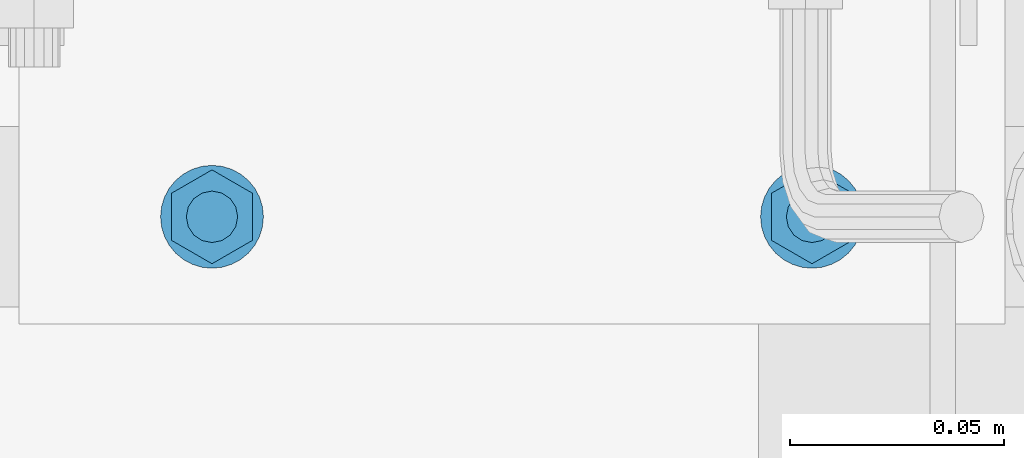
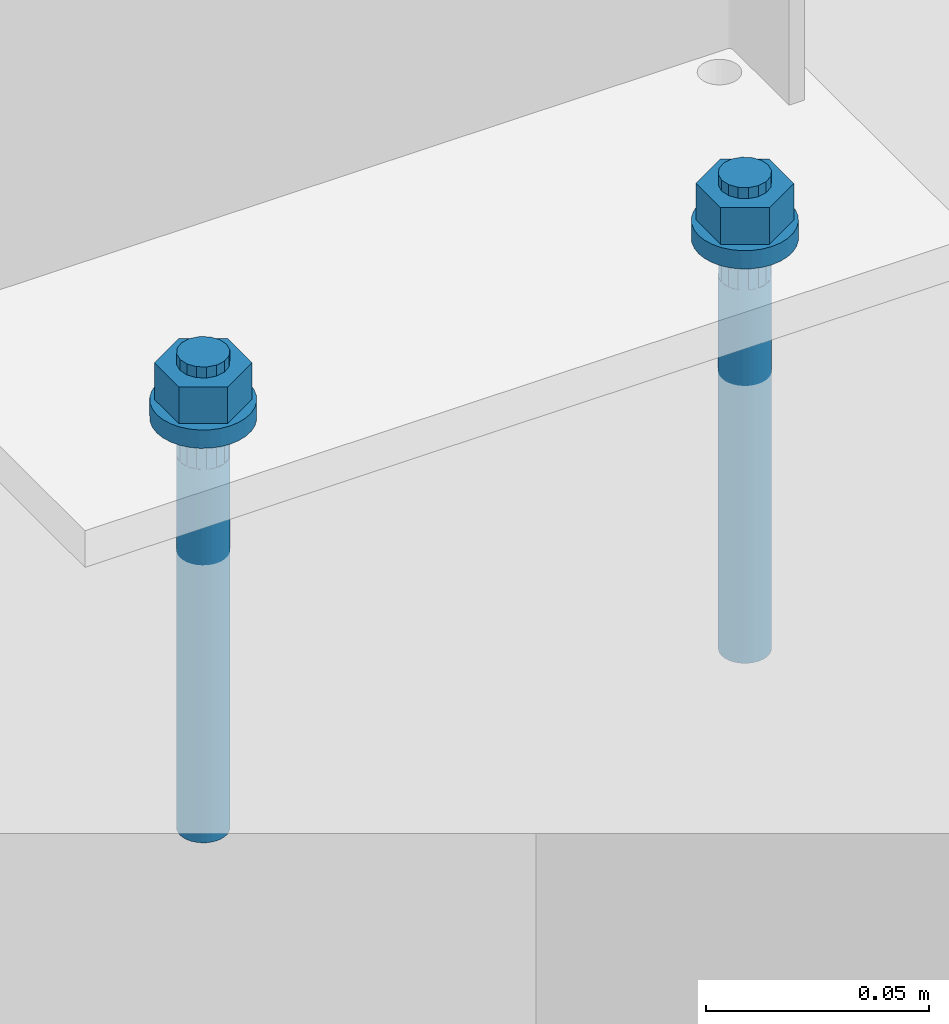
# One storey, part 33 of 116: 1 mechanical fastener.
"""IFC2X3 building model written with IfcOpenShell, lengths in millimetres."""

from ifc_helpers import new_model, entity, si_unit, converted_unit, origin_with_axes, place, context, project, spatial, faceted_brep, element, save


model = new_model("IFC2X3")

# Units and contexts
model_context = context("Model", 3, precision=1e-09, world=origin_with_axes())
ifc_project = project(units=[si_unit("LENGTHUNIT", "METRE", prefix="MILLI"), si_unit("AREAUNIT", "SQUARE_METRE"), si_unit("VOLUMEUNIT", "CUBIC_METRE"), converted_unit("PLANEANGLEUNIT", "DEGREE", entity("IfcPlaneAngleMeasure", 0.01745329), si_unit("PLANEANGLEUNIT", "RADIAN"), dimensions=[0, 0, 0, 0, 0, 0, 0])], contexts=[model_context])

# Site, building, storey
site_placement = place(None, origin_with_axes())
site = spatial("IfcSite", under=ifc_project, at=site_placement, Name="Site", CompositionType="ELEMENT")
building_placement = place(site_placement, origin_with_axes())
building = spatial("IfcBuilding", under=site, at=building_placement, Name="Struktur 1", CompositionType="ELEMENT")
storey_placement = place(building_placement, origin_with_axes())
storey = spatial("IfcBuildingStorey", under=building, at=storey_placement, Name="Default Storey", CompositionType="ELEMENT", Elevation=0.0)

# Mechanical fastener
mechanical_fastener_placement = place(None, origin_with_axes())
element("IfcMechanicalFastener", 1, at=mechanical_fastener_placement, inside=storey, ObjectType="-", NominalDiameter=12.0, NominalLength=130.0, context=model_context, shape_type="Brep", body=[
    faceted_brep([(60566.549134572, 10360.358883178, -1742.0), (60566.549134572, 10360.358883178, -1739.5), (60566.779711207, 10362.699967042, -1739.5), (60566.779711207, 10362.699967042, -1742.0), (60567.462580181, 10364.951084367, -1739.5), (60567.462580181, 10364.951084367, -1742.0), (60568.571499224, 10367.025725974, -1739.5), (60568.571499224, 10367.025725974, -1742.0), (60570.063853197, 10368.844164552, -1739.5), (60570.063853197, 10368.844164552, -1742.0), (60571.882291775, 10370.336518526, -1739.5), (60571.882291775, 10370.336518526, -1742.0), (60573.956933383, 10371.445437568, -1739.5), (60573.956933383, 10371.445437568, -1742.0), (60576.208050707, 10372.128306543, -1739.5), (60576.208050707, 10372.128306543, -1742.0), (60578.549134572, 10372.358883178, -1739.5), (60578.549134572, 10372.358883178, -1742.0), (60580.890218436, 10372.128306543, -1739.5), (60580.890218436, 10372.128306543, -1742.0), (60583.14133576, 10371.445437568, -1739.5), (60583.14133576, 10371.445437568, -1742.0), (60585.215977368, 10370.336518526, -1739.5), (60585.215977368, 10370.336518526, -1742.0), (60587.034415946, 10368.844164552, -1739.5), (60587.034415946, 10368.844164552, -1742.0), (60588.526769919, 10367.025725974, -1739.5), (60588.526769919, 10367.025725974, -1742.0), (60589.635688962, 10364.951084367, -1739.5), (60589.635688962, 10364.951084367, -1742.0), (60590.318557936, 10362.699967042, -1739.5), (60590.318557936, 10362.699967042, -1742.0), (60590.549134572, 10360.358883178, -1739.5), (60590.549134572, 10360.358883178, -1742.0), (60590.318557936, 10358.017799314, -1739.5), (60590.318557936, 10358.017799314, -1742.0), (60589.635688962, 10355.76668199, -1739.5), (60589.635688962, 10355.76668199, -1742.0), (60588.526769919, 10353.692040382, -1739.5), (60588.526769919, 10353.692040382, -1742.0), (60587.034415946, 10351.873601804, -1739.5), (60587.034415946, 10351.873601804, -1742.0), (60585.215977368, 10350.381247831, -1739.5), (60585.215977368, 10350.381247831, -1742.0), (60583.14133576, 10349.272328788, -1739.5), (60583.14133576, 10349.272328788, -1742.0), (60580.890218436, 10348.589459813, -1739.5), (60580.890218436, 10348.589459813, -1742.0), (60578.549134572, 10348.358883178, -1739.5), (60578.549134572, 10348.358883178, -1742.0), (60576.208050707, 10348.589459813, -1739.5), (60576.208050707, 10348.589459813, -1742.0), (60573.956933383, 10349.272328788, -1739.5), (60573.956933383, 10349.272328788, -1742.0), (60571.882291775, 10350.381247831, -1739.5), (60571.882291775, 10350.381247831, -1742.0), (60570.063853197, 10351.873601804, -1739.5), (60570.063853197, 10351.873601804, -1742.0), (60568.571499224, 10353.692040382, -1739.5), (60568.571499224, 10353.692040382, -1742.0), (60567.462580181, 10355.76668199, -1739.5), (60567.462580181, 10355.76668199, -1742.0), (60566.779711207, 10358.017799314, -1739.5), (60566.779711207, 10358.017799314, -1742.0)], [[[0, 1, 2, 3]], [[3, 2, 4, 5]], [[5, 4, 6, 7]], [[7, 6, 8, 9]], [[9, 8, 10, 11]], [[11, 10, 12, 13]], [[13, 12, 14, 15]], [[15, 14, 16, 17]], [[17, 16, 18, 19]], [[19, 18, 20, 21]], [[21, 20, 22, 23]], [[23, 22, 24, 25]], [[25, 24, 26, 27]], [[27, 26, 28, 29]], [[29, 28, 30, 31]], [[31, 30, 32, 33]], [[33, 32, 34, 35]], [[35, 34, 36, 37]], [[37, 36, 38, 39]], [[39, 38, 40, 41]], [[41, 40, 42, 43]], [[43, 42, 44, 45]], [[45, 44, 46, 47]], [[47, 46, 48, 49]], [[49, 48, 50, 51]], [[51, 50, 52, 53]], [[53, 52, 54, 55]], [[55, 54, 56, 57]], [[57, 56, 58, 59]], [[59, 58, 60, 61]], [[61, 60, 62, 63]], [[63, 62, 1, 0]], [[2, 1, 62, 60, 58, 56, 54, 52, 50, 48, 46, 44, 42, 40, 38, 36, 34, 32, 30, 28, 26, 24, 22, 20, 18, 16, 14, 12, 10, 8, 6, 4]], [[63, 0, 3, 5, 7, 9, 11, 13, 15, 17, 19, 21, 23, 25, 27, 29, 31, 33, 35, 37, 39, 41, 43, 45, 47, 49, 51, 53, 55, 57, 59, 61]]]),
    faceted_brep([(60426.549134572, 10360.358883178, -1742.0), (60426.549134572, 10360.358883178, -1739.5), (60426.779711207, 10362.699967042, -1739.5), (60426.779711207, 10362.699967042, -1742.0), (60427.462580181, 10364.951084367, -1739.5), (60427.462580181, 10364.951084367, -1742.0), (60428.571499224, 10367.025725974, -1739.5), (60428.571499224, 10367.025725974, -1742.0), (60430.063853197, 10368.844164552, -1739.5), (60430.063853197, 10368.844164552, -1742.0), (60431.882291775, 10370.336518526, -1739.5), (60431.882291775, 10370.336518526, -1742.0), (60433.956933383, 10371.445437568, -1739.5), (60433.956933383, 10371.445437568, -1742.0), (60436.208050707, 10372.128306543, -1739.5), (60436.208050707, 10372.128306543, -1742.0), (60438.549134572, 10372.358883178, -1739.5), (60438.549134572, 10372.358883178, -1742.0), (60440.890218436, 10372.128306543, -1739.5), (60440.890218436, 10372.128306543, -1742.0), (60443.14133576, 10371.445437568, -1739.5), (60443.14133576, 10371.445437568, -1742.0), (60445.215977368, 10370.336518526, -1739.5), (60445.215977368, 10370.336518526, -1742.0), (60447.034415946, 10368.844164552, -1739.5), (60447.034415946, 10368.844164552, -1742.0), (60448.526769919, 10367.025725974, -1739.5), (60448.526769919, 10367.025725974, -1742.0), (60449.635688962, 10364.951084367, -1739.5), (60449.635688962, 10364.951084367, -1742.0), (60450.318557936, 10362.699967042, -1739.5), (60450.318557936, 10362.699967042, -1742.0), (60450.549134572, 10360.358883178, -1739.5), (60450.549134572, 10360.358883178, -1742.0), (60450.318557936, 10358.017799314, -1739.5), (60450.318557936, 10358.017799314, -1742.0), (60449.635688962, 10355.76668199, -1739.5), (60449.635688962, 10355.76668199, -1742.0), (60448.526769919, 10353.692040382, -1739.5), (60448.526769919, 10353.692040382, -1742.0), (60447.034415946, 10351.873601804, -1739.5), (60447.034415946, 10351.873601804, -1742.0), (60445.215977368, 10350.381247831, -1739.5), (60445.215977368, 10350.381247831, -1742.0), (60443.14133576, 10349.272328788, -1739.5), (60443.14133576, 10349.272328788, -1742.0), (60440.890218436, 10348.589459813, -1739.5), (60440.890218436, 10348.589459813, -1742.0), (60438.549134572, 10348.358883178, -1739.5), (60438.549134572, 10348.358883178, -1742.0), (60436.208050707, 10348.589459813, -1739.5), (60436.208050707, 10348.589459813, -1742.0), (60433.956933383, 10349.272328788, -1739.5), (60433.956933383, 10349.272328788, -1742.0), (60431.882291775, 10350.381247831, -1739.5), (60431.882291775, 10350.381247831, -1742.0), (60430.063853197, 10351.873601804, -1739.5), (60430.063853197, 10351.873601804, -1742.0), (60428.571499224, 10353.692040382, -1739.5), (60428.571499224, 10353.692040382, -1742.0), (60427.462580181, 10355.76668199, -1739.5), (60427.462580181, 10355.76668199, -1742.0), (60426.779711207, 10358.017799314, -1739.5), (60426.779711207, 10358.017799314, -1742.0)], [[[0, 1, 2, 3]], [[3, 2, 4, 5]], [[5, 4, 6, 7]], [[7, 6, 8, 9]], [[9, 8, 10, 11]], [[11, 10, 12, 13]], [[13, 12, 14, 15]], [[15, 14, 16, 17]], [[17, 16, 18, 19]], [[19, 18, 20, 21]], [[21, 20, 22, 23]], [[23, 22, 24, 25]], [[25, 24, 26, 27]], [[27, 26, 28, 29]], [[29, 28, 30, 31]], [[31, 30, 32, 33]], [[33, 32, 34, 35]], [[35, 34, 36, 37]], [[37, 36, 38, 39]], [[39, 38, 40, 41]], [[41, 40, 42, 43]], [[43, 42, 44, 45]], [[45, 44, 46, 47]], [[47, 46, 48, 49]], [[49, 48, 50, 51]], [[51, 50, 52, 53]], [[53, 52, 54, 55]], [[55, 54, 56, 57]], [[57, 56, 58, 59]], [[59, 58, 60, 61]], [[61, 60, 62, 63]], [[63, 62, 1, 0]], [[2, 1, 62, 60, 58, 56, 54, 52, 50, 48, 46, 44, 42, 40, 38, 36, 34, 32, 30, 28, 26, 24, 22, 20, 18, 16, 14, 12, 10, 8, 6, 4]], [[63, 0, 3, 5, 7, 9, 11, 13, 15, 17, 19, 21, 23, 25, 27, 29, 31, 33, 35, 37, 39, 41, 43, 45, 47, 49, 51, 53, 55, 57, 59, 61]]]),
    faceted_brep([(60566.549134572, 10360.358883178, -1739.5), (60566.549134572, 10360.358883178, -1737.0), (60566.779711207, 10362.699967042, -1737.0), (60566.779711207, 10362.699967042, -1739.5), (60567.462580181, 10364.951084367, -1737.0), (60567.462580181, 10364.951084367, -1739.5), (60568.571499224, 10367.025725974, -1737.0), (60568.571499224, 10367.025725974, -1739.5), (60570.063853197, 10368.844164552, -1737.0), (60570.063853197, 10368.844164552, -1739.5), (60571.882291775, 10370.336518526, -1737.0), (60571.882291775, 10370.336518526, -1739.5), (60573.956933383, 10371.445437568, -1737.0), (60573.956933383, 10371.445437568, -1739.5), (60576.208050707, 10372.128306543, -1737.0), (60576.208050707, 10372.128306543, -1739.5), (60578.549134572, 10372.358883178, -1737.0), (60578.549134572, 10372.358883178, -1739.5), (60580.890218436, 10372.128306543, -1737.0), (60580.890218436, 10372.128306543, -1739.5), (60583.14133576, 10371.445437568, -1737.0), (60583.14133576, 10371.445437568, -1739.5), (60585.215977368, 10370.336518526, -1737.0), (60585.215977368, 10370.336518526, -1739.5), (60587.034415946, 10368.844164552, -1737.0), (60587.034415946, 10368.844164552, -1739.5), (60588.526769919, 10367.025725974, -1737.0), (60588.526769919, 10367.025725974, -1739.5), (60589.635688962, 10364.951084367, -1737.0), (60589.635688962, 10364.951084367, -1739.5), (60590.318557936, 10362.699967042, -1737.0), (60590.318557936, 10362.699967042, -1739.5), (60590.549134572, 10360.358883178, -1737.0), (60590.549134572, 10360.358883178, -1739.5), (60590.318557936, 10358.017799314, -1737.0), (60590.318557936, 10358.017799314, -1739.5), (60589.635688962, 10355.76668199, -1737.0), (60589.635688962, 10355.76668199, -1739.5), (60588.526769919, 10353.692040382, -1737.0), (60588.526769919, 10353.692040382, -1739.5), (60587.034415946, 10351.873601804, -1737.0), (60587.034415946, 10351.873601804, -1739.5), (60585.215977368, 10350.381247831, -1737.0), (60585.215977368, 10350.381247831, -1739.5), (60583.14133576, 10349.272328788, -1737.0), (60583.14133576, 10349.272328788, -1739.5), (60580.890218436, 10348.589459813, -1737.0), (60580.890218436, 10348.589459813, -1739.5), (60578.549134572, 10348.358883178, -1737.0), (60578.549134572, 10348.358883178, -1739.5), (60576.208050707, 10348.589459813, -1737.0), (60576.208050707, 10348.589459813, -1739.5), (60573.956933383, 10349.272328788, -1737.0), (60573.956933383, 10349.272328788, -1739.5), (60571.882291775, 10350.381247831, -1737.0), (60571.882291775, 10350.381247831, -1739.5), (60570.063853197, 10351.873601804, -1737.0), (60570.063853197, 10351.873601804, -1739.5), (60568.571499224, 10353.692040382, -1737.0), (60568.571499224, 10353.692040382, -1739.5), (60567.462580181, 10355.76668199, -1737.0), (60567.462580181, 10355.76668199, -1739.5), (60566.779711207, 10358.017799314, -1737.0), (60566.779711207, 10358.017799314, -1739.5)], [[[0, 1, 2, 3]], [[3, 2, 4, 5]], [[5, 4, 6, 7]], [[7, 6, 8, 9]], [[9, 8, 10, 11]], [[11, 10, 12, 13]], [[13, 12, 14, 15]], [[15, 14, 16, 17]], [[17, 16, 18, 19]], [[19, 18, 20, 21]], [[21, 20, 22, 23]], [[23, 22, 24, 25]], [[25, 24, 26, 27]], [[27, 26, 28, 29]], [[29, 28, 30, 31]], [[31, 30, 32, 33]], [[33, 32, 34, 35]], [[35, 34, 36, 37]], [[37, 36, 38, 39]], [[39, 38, 40, 41]], [[41, 40, 42, 43]], [[43, 42, 44, 45]], [[45, 44, 46, 47]], [[47, 46, 48, 49]], [[49, 48, 50, 51]], [[51, 50, 52, 53]], [[53, 52, 54, 55]], [[55, 54, 56, 57]], [[57, 56, 58, 59]], [[59, 58, 60, 61]], [[61, 60, 62, 63]], [[63, 62, 1, 0]], [[2, 1, 62, 60, 58, 56, 54, 52, 50, 48, 46, 44, 42, 40, 38, 36, 34, 32, 30, 28, 26, 24, 22, 20, 18, 16, 14, 12, 10, 8, 6, 4]], [[63, 0, 3, 5, 7, 9, 11, 13, 15, 17, 19, 21, 23, 25, 27, 29, 31, 33, 35, 37, 39, 41, 43, 45, 47, 49, 51, 53, 55, 57, 59, 61]]]),
    faceted_brep([(60426.549134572, 10360.358883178, -1739.5), (60426.549134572, 10360.358883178, -1737.0), (60426.779711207, 10362.699967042, -1737.0), (60426.779711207, 10362.699967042, -1739.5), (60427.462580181, 10364.951084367, -1737.0), (60427.462580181, 10364.951084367, -1739.5), (60428.571499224, 10367.025725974, -1737.0), (60428.571499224, 10367.025725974, -1739.5), (60430.063853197, 10368.844164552, -1737.0), (60430.063853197, 10368.844164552, -1739.5), (60431.882291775, 10370.336518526, -1737.0), (60431.882291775, 10370.336518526, -1739.5), (60433.956933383, 10371.445437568, -1737.0), (60433.956933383, 10371.445437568, -1739.5), (60436.208050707, 10372.128306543, -1737.0), (60436.208050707, 10372.128306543, -1739.5), (60438.549134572, 10372.358883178, -1737.0), (60438.549134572, 10372.358883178, -1739.5), (60440.890218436, 10372.128306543, -1737.0), (60440.890218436, 10372.128306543, -1739.5), (60443.14133576, 10371.445437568, -1737.0), (60443.14133576, 10371.445437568, -1739.5), (60445.215977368, 10370.336518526, -1737.0), (60445.215977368, 10370.336518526, -1739.5), (60447.034415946, 10368.844164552, -1737.0), (60447.034415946, 10368.844164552, -1739.5), (60448.526769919, 10367.025725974, -1737.0), (60448.526769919, 10367.025725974, -1739.5), (60449.635688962, 10364.951084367, -1737.0), (60449.635688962, 10364.951084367, -1739.5), (60450.318557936, 10362.699967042, -1737.0), (60450.318557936, 10362.699967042, -1739.5), (60450.549134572, 10360.358883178, -1737.0), (60450.549134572, 10360.358883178, -1739.5), (60450.318557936, 10358.017799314, -1737.0), (60450.318557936, 10358.017799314, -1739.5), (60449.635688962, 10355.76668199, -1737.0), (60449.635688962, 10355.76668199, -1739.5), (60448.526769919, 10353.692040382, -1737.0), (60448.526769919, 10353.692040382, -1739.5), (60447.034415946, 10351.873601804, -1737.0), (60447.034415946, 10351.873601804, -1739.5), (60445.215977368, 10350.381247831, -1737.0), (60445.215977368, 10350.381247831, -1739.5), (60443.14133576, 10349.272328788, -1737.0), (60443.14133576, 10349.272328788, -1739.5), (60440.890218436, 10348.589459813, -1737.0), (60440.890218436, 10348.589459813, -1739.5), (60438.549134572, 10348.358883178, -1737.0), (60438.549134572, 10348.358883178, -1739.5), (60436.208050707, 10348.589459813, -1737.0), (60436.208050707, 10348.589459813, -1739.5), (60433.956933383, 10349.272328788, -1737.0), (60433.956933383, 10349.272328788, -1739.5), (60431.882291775, 10350.381247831, -1737.0), (60431.882291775, 10350.381247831, -1739.5), (60430.063853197, 10351.873601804, -1737.0), (60430.063853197, 10351.873601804, -1739.5), (60428.571499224, 10353.692040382, -1737.0), (60428.571499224, 10353.692040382, -1739.5), (60427.462580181, 10355.76668199, -1737.0), (60427.462580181, 10355.76668199, -1739.5), (60426.779711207, 10358.017799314, -1737.0), (60426.779711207, 10358.017799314, -1739.5)], [[[0, 1, 2, 3]], [[3, 2, 4, 5]], [[5, 4, 6, 7]], [[7, 6, 8, 9]], [[9, 8, 10, 11]], [[11, 10, 12, 13]], [[13, 12, 14, 15]], [[15, 14, 16, 17]], [[17, 16, 18, 19]], [[19, 18, 20, 21]], [[21, 20, 22, 23]], [[23, 22, 24, 25]], [[25, 24, 26, 27]], [[27, 26, 28, 29]], [[29, 28, 30, 31]], [[31, 30, 32, 33]], [[33, 32, 34, 35]], [[35, 34, 36, 37]], [[37, 36, 38, 39]], [[39, 38, 40, 41]], [[41, 40, 42, 43]], [[43, 42, 44, 45]], [[45, 44, 46, 47]], [[47, 46, 48, 49]], [[49, 48, 50, 51]], [[51, 50, 52, 53]], [[53, 52, 54, 55]], [[55, 54, 56, 57]], [[57, 56, 58, 59]], [[59, 58, 60, 61]], [[61, 60, 62, 63]], [[63, 62, 1, 0]], [[2, 1, 62, 60, 58, 56, 54, 52, 50, 48, 46, 44, 42, 40, 38, 36, 34, 32, 30, 28, 26, 24, 22, 20, 18, 16, 14, 12, 10, 8, 6, 4]], [[63, 0, 3, 5, 7, 9, 11, 13, 15, 17, 19, 21, 23, 25, 27, 29, 31, 33, 35, 37, 39, 41, 43, 45, 47, 49, 51, 53, 55, 57, 59, 61]]]),
    faceted_brep([(60588.032112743, 10365.833883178, -1727.0), (60588.032112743, 10365.833883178, -1737.0), (60578.549134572, 10371.308883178, -1737.0), (60578.549134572, 10371.308883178, -1727.0), (60569.0661564, 10365.833883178, -1737.0), (60569.0661564, 10365.833883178, -1727.0), (60569.0661564, 10354.883883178, -1737.0), (60569.0661564, 10354.883883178, -1727.0), (60578.549134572, 10349.408883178, -1737.0), (60578.549134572, 10349.408883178, -1727.0), (60588.032112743, 10354.883883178, -1737.0), (60588.032112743, 10354.883883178, -1727.0)], [[[0, 1, 2, 3]], [[3, 2, 4, 5]], [[5, 4, 6, 7]], [[7, 6, 8, 9]], [[9, 8, 10, 11]], [[11, 10, 1, 0]], [[3, 5, 7, 9, 11, 0]], [[2, 1, 10, 8, 6, 4]]]),
    faceted_brep([(60448.032112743, 10365.833883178, -1727.0), (60448.032112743, 10365.833883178, -1737.0), (60438.549134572, 10371.308883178, -1737.0), (60438.549134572, 10371.308883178, -1727.0), (60429.0661564, 10365.833883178, -1737.0), (60429.0661564, 10365.833883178, -1727.0), (60429.0661564, 10354.883883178, -1737.0), (60429.0661564, 10354.883883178, -1727.0), (60438.549134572, 10349.408883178, -1737.0), (60438.549134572, 10349.408883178, -1727.0), (60448.032112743, 10354.883883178, -1737.0), (60448.032112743, 10354.883883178, -1727.0)], [[[0, 1, 2, 3]], [[3, 2, 4, 5]], [[5, 4, 6, 7]], [[7, 6, 8, 9]], [[9, 8, 10, 11]], [[11, 10, 1, 0]], [[3, 5, 7, 9, 11, 0]], [[2, 1, 10, 8, 6, 4]]]),
    faceted_brep([(60572.549134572, 10360.358883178, -1727.0), (60572.549134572, 10360.358883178, -1724.0), (60573.005857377, 10362.654983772, -1724.0), (60573.005857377, 10362.654983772, -1727.0), (60574.306493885, 10364.601523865, -1724.0), (60574.306493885, 10364.601523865, -1727.0), (60576.253033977, 10365.902160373, -1724.0), (60576.253033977, 10365.902160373, -1727.0), (60578.549134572, 10366.358883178, -1724.0), (60578.549134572, 10366.358883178, -1727.0), (60580.845235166, 10365.902160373, -1724.0), (60580.845235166, 10365.902160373, -1727.0), (60582.791775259, 10364.601523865, -1724.0), (60582.791775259, 10364.601523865, -1727.0), (60584.092411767, 10362.654983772, -1724.0), (60584.092411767, 10362.654983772, -1727.0), (60584.549134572, 10360.358883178, -1724.0), (60584.549134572, 10360.358883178, -1727.0), (60584.092411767, 10358.062782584, -1724.0), (60584.092411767, 10358.062782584, -1727.0), (60582.791775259, 10356.116242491, -1724.0), (60582.791775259, 10356.116242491, -1727.0), (60580.845235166, 10354.815605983, -1724.0), (60580.845235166, 10354.815605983, -1727.0), (60578.549134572, 10354.358883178, -1724.0), (60578.549134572, 10354.358883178, -1727.0), (60576.253033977, 10354.815605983, -1724.0), (60576.253033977, 10354.815605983, -1727.0), (60574.306493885, 10356.116242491, -1724.0), (60574.306493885, 10356.116242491, -1727.0), (60573.005857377, 10358.062782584, -1724.0), (60573.005857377, 10358.062782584, -1727.0)], [[[0, 1, 2, 3]], [[3, 2, 4, 5]], [[5, 4, 6, 7]], [[7, 6, 8, 9]], [[9, 8, 10, 11]], [[11, 10, 12, 13]], [[13, 12, 14, 15]], [[15, 14, 16, 17]], [[17, 16, 18, 19]], [[19, 18, 20, 21]], [[21, 20, 22, 23]], [[23, 22, 24, 25]], [[25, 24, 26, 27]], [[27, 26, 28, 29]], [[29, 28, 30, 31]], [[31, 30, 1, 0]], [[2, 1, 30, 28, 26, 24, 22, 20, 18, 16, 14, 12, 10, 8, 6, 4]], [[31, 0, 3, 5, 7, 9, 11, 13, 15, 17, 19, 21, 23, 25, 27, 29]]]),
    faceted_brep([(60432.549134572, 10360.358883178, -1727.0), (60432.549134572, 10360.358883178, -1724.0), (60433.005857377, 10362.654983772, -1724.0), (60433.005857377, 10362.654983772, -1727.0), (60434.306493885, 10364.601523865, -1724.0), (60434.306493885, 10364.601523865, -1727.0), (60436.253033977, 10365.902160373, -1724.0), (60436.253033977, 10365.902160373, -1727.0), (60438.549134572, 10366.358883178, -1724.0), (60438.549134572, 10366.358883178, -1727.0), (60440.845235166, 10365.902160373, -1724.0), (60440.845235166, 10365.902160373, -1727.0), (60442.791775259, 10364.601523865, -1724.0), (60442.791775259, 10364.601523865, -1727.0), (60444.092411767, 10362.654983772, -1724.0), (60444.092411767, 10362.654983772, -1727.0), (60444.549134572, 10360.358883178, -1724.0), (60444.549134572, 10360.358883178, -1727.0), (60444.092411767, 10358.062782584, -1724.0), (60444.092411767, 10358.062782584, -1727.0), (60442.791775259, 10356.116242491, -1724.0), (60442.791775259, 10356.116242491, -1727.0), (60440.845235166, 10354.815605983, -1724.0), (60440.845235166, 10354.815605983, -1727.0), (60438.549134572, 10354.358883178, -1724.0), (60438.549134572, 10354.358883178, -1727.0), (60436.253033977, 10354.815605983, -1724.0), (60436.253033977, 10354.815605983, -1727.0), (60434.306493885, 10356.116242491, -1724.0), (60434.306493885, 10356.116242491, -1727.0), (60433.005857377, 10358.062782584, -1724.0), (60433.005857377, 10358.062782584, -1727.0)], [[[0, 1, 2, 3]], [[3, 2, 4, 5]], [[5, 4, 6, 7]], [[7, 6, 8, 9]], [[9, 8, 10, 11]], [[11, 10, 12, 13]], [[13, 12, 14, 15]], [[15, 14, 16, 17]], [[17, 16, 18, 19]], [[19, 18, 20, 21]], [[21, 20, 22, 23]], [[23, 22, 24, 25]], [[25, 24, 26, 27]], [[27, 26, 28, 29]], [[29, 28, 30, 31]], [[31, 30, 1, 0]], [[2, 1, 30, 28, 26, 24, 22, 20, 18, 16, 14, 12, 10, 8, 6, 4]], [[31, 0, 3, 5, 7, 9, 11, 13, 15, 17, 19, 21, 23, 25, 27, 29]]]),
    faceted_brep([(60572.549134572, 10360.358883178, -1752.0), (60572.549134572, 10360.358883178, -1742.0), (60573.005857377, 10362.654983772, -1742.0), (60573.005857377, 10362.654983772, -1752.0), (60574.306493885, 10364.601523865, -1742.0), (60574.306493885, 10364.601523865, -1752.0), (60576.253033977, 10365.902160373, -1742.0), (60576.253033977, 10365.902160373, -1752.0), (60578.549134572, 10366.358883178, -1742.0), (60578.549134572, 10366.358883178, -1752.0), (60580.845235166, 10365.902160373, -1742.0), (60580.845235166, 10365.902160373, -1752.0), (60582.791775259, 10364.601523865, -1742.0), (60582.791775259, 10364.601523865, -1752.0), (60584.092411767, 10362.654983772, -1742.0), (60584.092411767, 10362.654983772, -1752.0), (60584.549134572, 10360.358883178, -1742.0), (60584.549134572, 10360.358883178, -1752.0), (60584.092411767, 10358.062782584, -1742.0), (60584.092411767, 10358.062782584, -1752.0), (60582.791775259, 10356.116242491, -1742.0), (60582.791775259, 10356.116242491, -1752.0), (60580.845235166, 10354.815605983, -1742.0), (60580.845235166, 10354.815605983, -1752.0), (60578.549134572, 10354.358883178, -1742.0), (60578.549134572, 10354.358883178, -1752.0), (60576.253033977, 10354.815605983, -1742.0), (60576.253033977, 10354.815605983, -1752.0), (60574.306493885, 10356.116242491, -1742.0), (60574.306493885, 10356.116242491, -1752.0), (60573.005857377, 10358.062782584, -1742.0), (60573.005857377, 10358.062782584, -1752.0)], [[[0, 1, 2, 3]], [[3, 2, 4, 5]], [[5, 4, 6, 7]], [[7, 6, 8, 9]], [[9, 8, 10, 11]], [[11, 10, 12, 13]], [[13, 12, 14, 15]], [[15, 14, 16, 17]], [[17, 16, 18, 19]], [[19, 18, 20, 21]], [[21, 20, 22, 23]], [[23, 22, 24, 25]], [[25, 24, 26, 27]], [[27, 26, 28, 29]], [[29, 28, 30, 31]], [[31, 30, 1, 0]], [[2, 1, 30, 28, 26, 24, 22, 20, 18, 16, 14, 12, 10, 8, 6, 4]], [[31, 0, 3, 5, 7, 9, 11, 13, 15, 17, 19, 21, 23, 25, 27, 29]]]),
    faceted_brep([(60432.549134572, 10360.358883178, -1752.0), (60432.549134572, 10360.358883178, -1742.0), (60433.005857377, 10362.654983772, -1742.0), (60433.005857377, 10362.654983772, -1752.0), (60434.306493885, 10364.601523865, -1742.0), (60434.306493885, 10364.601523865, -1752.0), (60436.253033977, 10365.902160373, -1742.0), (60436.253033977, 10365.902160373, -1752.0), (60438.549134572, 10366.358883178, -1742.0), (60438.549134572, 10366.358883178, -1752.0), (60440.845235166, 10365.902160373, -1742.0), (60440.845235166, 10365.902160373, -1752.0), (60442.791775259, 10364.601523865, -1742.0), (60442.791775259, 10364.601523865, -1752.0), (60444.092411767, 10362.654983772, -1742.0), (60444.092411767, 10362.654983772, -1752.0), (60444.549134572, 10360.358883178, -1742.0), (60444.549134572, 10360.358883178, -1752.0), (60444.092411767, 10358.062782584, -1742.0), (60444.092411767, 10358.062782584, -1752.0), (60442.791775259, 10356.116242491, -1742.0), (60442.791775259, 10356.116242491, -1752.0), (60440.845235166, 10354.815605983, -1742.0), (60440.845235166, 10354.815605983, -1752.0), (60438.549134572, 10354.358883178, -1742.0), (60438.549134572, 10354.358883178, -1752.0), (60436.253033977, 10354.815605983, -1742.0), (60436.253033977, 10354.815605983, -1752.0), (60434.306493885, 10356.116242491, -1742.0), (60434.306493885, 10356.116242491, -1752.0), (60433.005857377, 10358.062782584, -1742.0), (60433.005857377, 10358.062782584, -1752.0)], [[[0, 1, 2, 3]], [[3, 2, 4, 5]], [[5, 4, 6, 7]], [[7, 6, 8, 9]], [[9, 8, 10, 11]], [[11, 10, 12, 13]], [[13, 12, 14, 15]], [[15, 14, 16, 17]], [[17, 16, 18, 19]], [[19, 18, 20, 21]], [[21, 20, 22, 23]], [[23, 22, 24, 25]], [[25, 24, 26, 27]], [[27, 26, 28, 29]], [[29, 28, 30, 31]], [[31, 30, 1, 0]], [[2, 1, 30, 28, 26, 24, 22, 20, 18, 16, 14, 12, 10, 8, 6, 4]], [[31, 0, 3, 5, 7, 9, 11, 13, 15, 17, 19, 21, 23, 25, 27, 29]]]),
    faceted_brep([(60572.549134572, 10360.358883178, -1854.0), (60572.549134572, 10360.358883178, -1752.0), (60572.664422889, 10361.52942511, -1752.0), (60572.664422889, 10361.52942511, -1854.0), (60573.005857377, 10362.654983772, -1752.0), (60573.005857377, 10362.654983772, -1854.0), (60573.560316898, 10363.692304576, -1752.0), (60573.560316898, 10363.692304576, -1854.0), (60574.306493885, 10364.601523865, -1752.0), (60574.306493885, 10364.601523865, -1854.0), (60575.215713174, 10365.347700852, -1752.0), (60575.215713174, 10365.347700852, -1854.0), (60576.253033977, 10365.902160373, -1752.0), (60576.253033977, 10365.902160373, -1854.0), (60577.37859264, 10366.243594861, -1752.0), (60577.37859264, 10366.243594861, -1854.0), (60578.549134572, 10366.358883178, -1752.0), (60578.549134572, 10366.358883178, -1854.0), (60579.719676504, 10366.243594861, -1752.0), (60579.719676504, 10366.243594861, -1854.0), (60580.845235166, 10365.902160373, -1752.0), (60580.845235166, 10365.902160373, -1854.0), (60581.88255597, 10365.347700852, -1752.0), (60581.88255597, 10365.347700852, -1854.0), (60582.791775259, 10364.601523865, -1752.0), (60582.791775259, 10364.601523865, -1854.0), (60583.537952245, 10363.692304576, -1752.0), (60583.537952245, 10363.692304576, -1854.0), (60584.092411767, 10362.654983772, -1752.0), (60584.092411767, 10362.654983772, -1854.0), (60584.433846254, 10361.52942511, -1752.0), (60584.433846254, 10361.52942511, -1854.0), (60584.549134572, 10360.358883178, -1752.0), (60584.549134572, 10360.358883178, -1854.0), (60584.433846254, 10359.188341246, -1752.0), (60584.433846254, 10359.188341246, -1854.0), (60584.092411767, 10358.062782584, -1752.0), (60584.092411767, 10358.062782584, -1854.0), (60583.537952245, 10357.02546178, -1752.0), (60583.537952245, 10357.02546178, -1854.0), (60582.791775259, 10356.116242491, -1752.0), (60582.791775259, 10356.116242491, -1854.0), (60581.88255597, 10355.370065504, -1752.0), (60581.88255597, 10355.370065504, -1854.0), (60580.845235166, 10354.815605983, -1752.0), (60580.845235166, 10354.815605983, -1854.0), (60579.719676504, 10354.474171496, -1752.0), (60579.719676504, 10354.474171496, -1854.0), (60578.549134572, 10354.358883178, -1752.0), (60578.549134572, 10354.358883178, -1854.0), (60577.37859264, 10354.474171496, -1752.0), (60577.37859264, 10354.474171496, -1854.0), (60576.253033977, 10354.815605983, -1752.0), (60576.253033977, 10354.815605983, -1854.0), (60575.215713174, 10355.370065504, -1752.0), (60575.215713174, 10355.370065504, -1854.0), (60574.306493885, 10356.116242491, -1752.0), (60574.306493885, 10356.116242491, -1854.0), (60573.560316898, 10357.02546178, -1752.0), (60573.560316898, 10357.02546178, -1854.0), (60573.005857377, 10358.062782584, -1752.0), (60573.005857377, 10358.062782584, -1854.0), (60572.664422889, 10359.188341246, -1752.0), (60572.664422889, 10359.188341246, -1854.0)], [[[0, 1, 2, 3]], [[3, 2, 4, 5]], [[5, 4, 6, 7]], [[7, 6, 8, 9]], [[9, 8, 10, 11]], [[11, 10, 12, 13]], [[13, 12, 14, 15]], [[15, 14, 16, 17]], [[17, 16, 18, 19]], [[19, 18, 20, 21]], [[21, 20, 22, 23]], [[23, 22, 24, 25]], [[25, 24, 26, 27]], [[27, 26, 28, 29]], [[29, 28, 30, 31]], [[31, 30, 32, 33]], [[33, 32, 34, 35]], [[35, 34, 36, 37]], [[37, 36, 38, 39]], [[39, 38, 40, 41]], [[41, 40, 42, 43]], [[43, 42, 44, 45]], [[45, 44, 46, 47]], [[47, 46, 48, 49]], [[49, 48, 50, 51]], [[51, 50, 52, 53]], [[53, 52, 54, 55]], [[55, 54, 56, 57]], [[57, 56, 58, 59]], [[59, 58, 60, 61]], [[61, 60, 62, 63]], [[63, 62, 1, 0]], [[2, 1, 62, 60, 58, 56, 54, 52, 50, 48, 46, 44, 42, 40, 38, 36, 34, 32, 30, 28, 26, 24, 22, 20, 18, 16, 14, 12, 10, 8, 6, 4]], [[63, 0, 3, 5, 7, 9, 11, 13, 15, 17, 19, 21, 23, 25, 27, 29, 31, 33, 35, 37, 39, 41, 43, 45, 47, 49, 51, 53, 55, 57, 59, 61]]]),
    faceted_brep([(60432.549134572, 10360.358883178, -1854.0), (60432.549134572, 10360.358883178, -1752.0), (60432.664422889, 10361.52942511, -1752.0), (60432.664422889, 10361.52942511, -1854.0), (60433.005857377, 10362.654983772, -1752.0), (60433.005857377, 10362.654983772, -1854.0), (60433.560316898, 10363.692304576, -1752.0), (60433.560316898, 10363.692304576, -1854.0), (60434.306493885, 10364.601523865, -1752.0), (60434.306493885, 10364.601523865, -1854.0), (60435.215713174, 10365.347700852, -1752.0), (60435.215713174, 10365.347700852, -1854.0), (60436.253033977, 10365.902160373, -1752.0), (60436.253033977, 10365.902160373, -1854.0), (60437.37859264, 10366.243594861, -1752.0), (60437.37859264, 10366.243594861, -1854.0), (60438.549134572, 10366.358883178, -1752.0), (60438.549134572, 10366.358883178, -1854.0), (60439.719676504, 10366.243594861, -1752.0), (60439.719676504, 10366.243594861, -1854.0), (60440.845235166, 10365.902160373, -1752.0), (60440.845235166, 10365.902160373, -1854.0), (60441.88255597, 10365.347700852, -1752.0), (60441.88255597, 10365.347700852, -1854.0), (60442.791775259, 10364.601523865, -1752.0), (60442.791775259, 10364.601523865, -1854.0), (60443.537952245, 10363.692304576, -1752.0), (60443.537952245, 10363.692304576, -1854.0), (60444.092411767, 10362.654983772, -1752.0), (60444.092411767, 10362.654983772, -1854.0), (60444.433846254, 10361.52942511, -1752.0), (60444.433846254, 10361.52942511, -1854.0), (60444.549134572, 10360.358883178, -1752.0), (60444.549134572, 10360.358883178, -1854.0), (60444.433846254, 10359.188341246, -1752.0), (60444.433846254, 10359.188341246, -1854.0), (60444.092411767, 10358.062782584, -1752.0), (60444.092411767, 10358.062782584, -1854.0), (60443.537952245, 10357.02546178, -1752.0), (60443.537952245, 10357.02546178, -1854.0), (60442.791775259, 10356.116242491, -1752.0), (60442.791775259, 10356.116242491, -1854.0), (60441.88255597, 10355.370065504, -1752.0), (60441.88255597, 10355.370065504, -1854.0), (60440.845235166, 10354.815605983, -1752.0), (60440.845235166, 10354.815605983, -1854.0), (60439.719676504, 10354.474171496, -1752.0), (60439.719676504, 10354.474171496, -1854.0), (60438.549134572, 10354.358883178, -1752.0), (60438.549134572, 10354.358883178, -1854.0), (60437.37859264, 10354.474171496, -1752.0), (60437.37859264, 10354.474171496, -1854.0), (60436.253033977, 10354.815605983, -1752.0), (60436.253033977, 10354.815605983, -1854.0), (60435.215713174, 10355.370065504, -1752.0), (60435.215713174, 10355.370065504, -1854.0), (60434.306493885, 10356.116242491, -1752.0), (60434.306493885, 10356.116242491, -1854.0), (60433.560316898, 10357.02546178, -1752.0), (60433.560316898, 10357.02546178, -1854.0), (60433.005857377, 10358.062782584, -1752.0), (60433.005857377, 10358.062782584, -1854.0), (60432.664422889, 10359.188341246, -1752.0), (60432.664422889, 10359.188341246, -1854.0)], [[[0, 1, 2, 3]], [[3, 2, 4, 5]], [[5, 4, 6, 7]], [[7, 6, 8, 9]], [[9, 8, 10, 11]], [[11, 10, 12, 13]], [[13, 12, 14, 15]], [[15, 14, 16, 17]], [[17, 16, 18, 19]], [[19, 18, 20, 21]], [[21, 20, 22, 23]], [[23, 22, 24, 25]], [[25, 24, 26, 27]], [[27, 26, 28, 29]], [[29, 28, 30, 31]], [[31, 30, 32, 33]], [[33, 32, 34, 35]], [[35, 34, 36, 37]], [[37, 36, 38, 39]], [[39, 38, 40, 41]], [[41, 40, 42, 43]], [[43, 42, 44, 45]], [[45, 44, 46, 47]], [[47, 46, 48, 49]], [[49, 48, 50, 51]], [[51, 50, 52, 53]], [[53, 52, 54, 55]], [[55, 54, 56, 57]], [[57, 56, 58, 59]], [[59, 58, 60, 61]], [[61, 60, 62, 63]], [[63, 62, 1, 0]], [[2, 1, 62, 60, 58, 56, 54, 52, 50, 48, 46, 44, 42, 40, 38, 36, 34, 32, 30, 28, 26, 24, 22, 20, 18, 16, 14, 12, 10, 8, 6, 4]], [[63, 0, 3, 5, 7, 9, 11, 13, 15, 17, 19, 21, 23, 25, 27, 29, 31, 33, 35, 37, 39, 41, 43, 45, 47, 49, 51, 53, 55, 57, 59, 61]]]),
])

save(model, "model.ifc")
